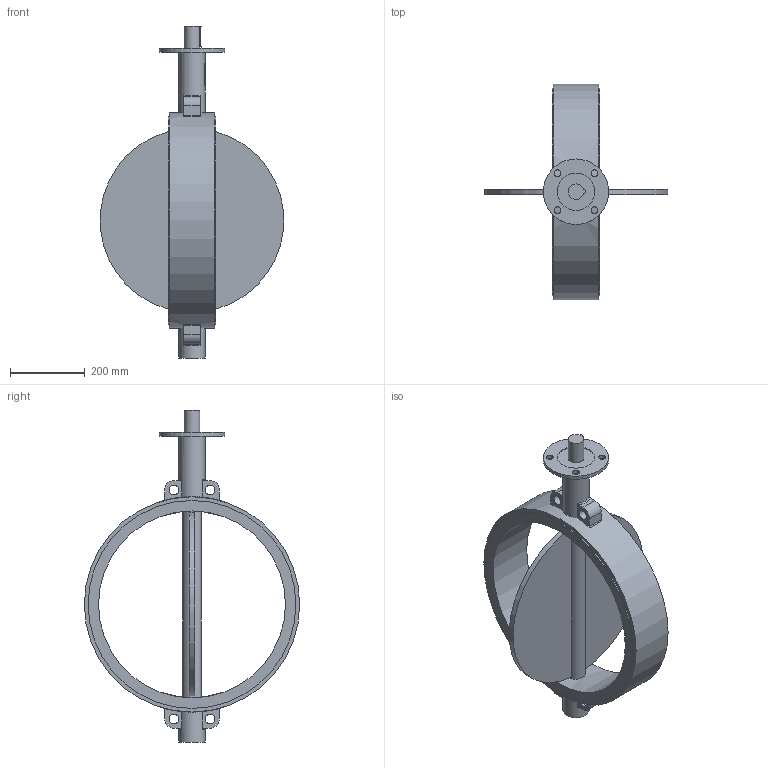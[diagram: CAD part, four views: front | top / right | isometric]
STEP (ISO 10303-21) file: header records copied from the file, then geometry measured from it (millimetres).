
FILE_DESCRIPTION(('STEP AP203'), '1');
FILE_NAME('青蜮铕 017W.YS_DN500_PN10', '', ('UNSPECIFIED'), ('UNSPECIFIED'), 'ASCON STEP Converter 1.6', 'ASCON Math Kernel', '');
FILE_SCHEMA(('CONFIG_CONTROL_DESIGN'));
Length unit declared in the file: millimetre
Bounding box: 489.79 x 576 x 888 mm (x, y, z)
Volume: 12984841.7 mm3; surface area: 1106834.3 mm2
Topology: 1 solids, 1 shells, 89 faces, 220 edges, 146 vertices
Faces by surface type: plane 48, cylinder 37, torus 4
Full cylindrical faces by diameter (mm): 18 x4, 26 x4, 41.5 x1, 50 x1, 70 x2, 100 x1, 175 x1, 500 x1, 556 x2, 576 x1
Entity records: 4591 total; most frequent: CARTESIAN_POINT 1699, DIRECTION 452, ORIENTED_EDGE 404, EDGE_CURVE 202, AXIS2_PLACEMENT_3D 180, VERTEX_POINT 146, EDGE_LOOP 140, FACE_BOUND 107
